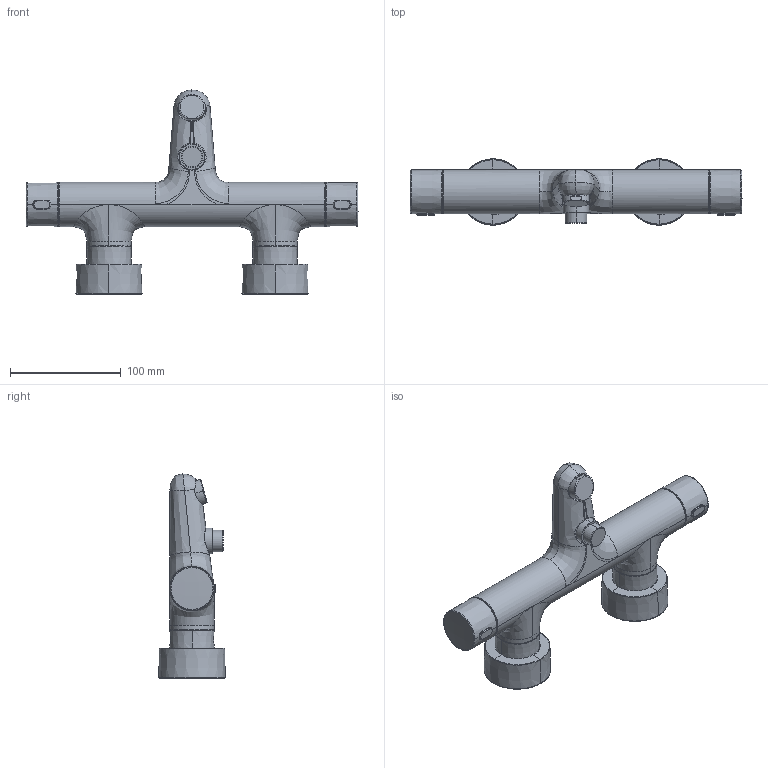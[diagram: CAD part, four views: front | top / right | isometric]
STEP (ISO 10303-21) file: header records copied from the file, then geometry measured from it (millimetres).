
FILE_DESCRIPTION (( 'STEP AP203' ), '1' );
FILE_NAME ('4740(2024).STEP', '2024-03-20T11:45:32', ( '' ), ( '' ), 'SwSTEP 2.0', 'SolidWorks 2016', '' );
FILE_SCHEMA (( 'CONFIG_CONTROL_DESIGN' ));
Length unit declared in the file: millimetre
Products named in the file (1): 4740(2024)
Bounding box: 299.88 x 59.98 x 184.36 mm (x, y, z)
Volume: 623279.4 mm3; surface area: 90753.7 mm2
Topology: 1 solids, 1 shells, 173 faces, 465 edges, 304 vertices
Faces by surface type: bspline 78, cylinder 32, plane 31, cone 26, torus 6
Entity records: 14415 total; most frequent: CARTESIAN_POINT 10539, ORIENTED_EDGE 922, DIRECTION 661, EDGE_CURVE 461, VERTEX_POINT 304, AXIS2_PLACEMENT_3D 290, CIRCLE 194, EDGE_LOOP 187
